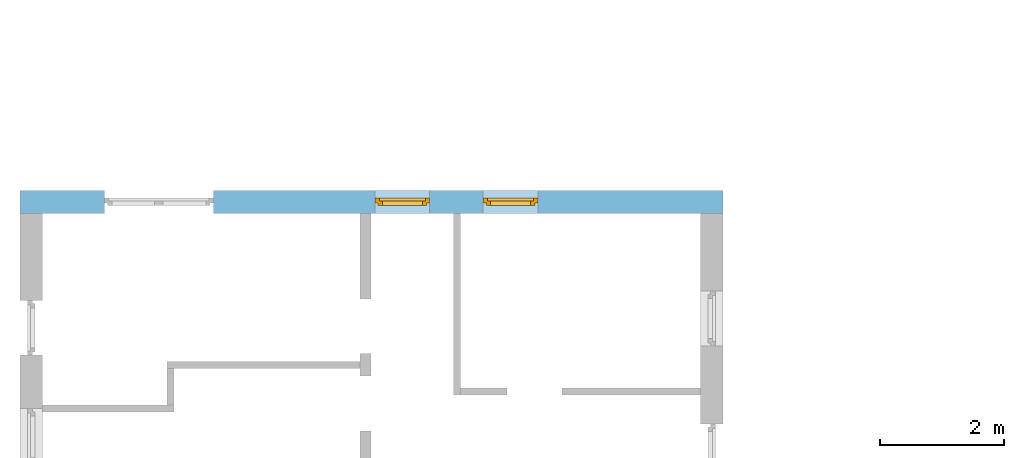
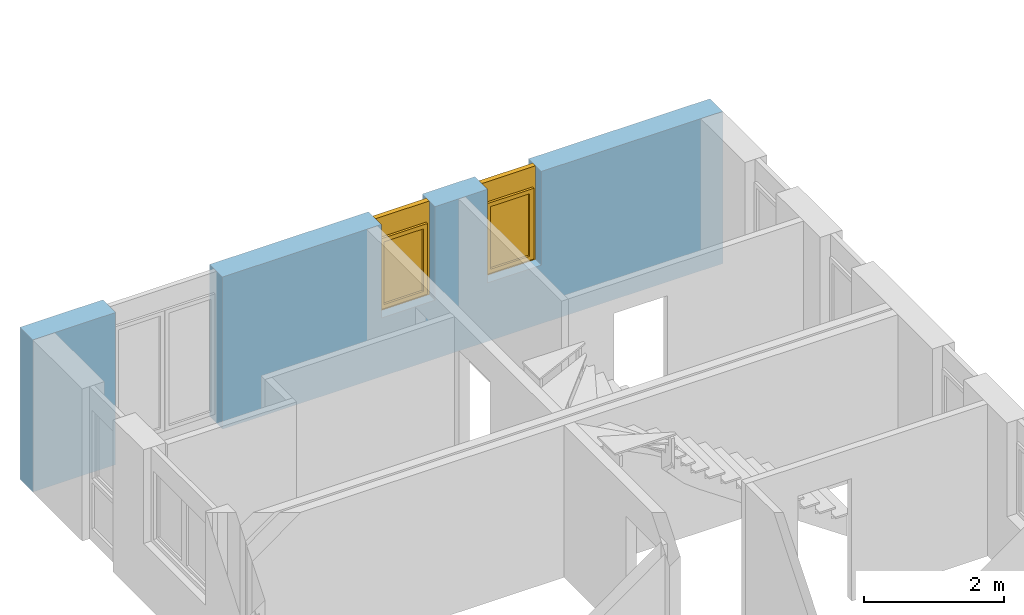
# One storey, part 14 of 42: 2 windows, 3 openings, plus 1 element that does not belong to this part.
"""IFC2X3 building model written with IfcOpenShell, lengths in millimetres."""

from ifc_helpers import new_model, entity, si_unit, converted_unit, frame, frame_2d, origin, origin_with_axes, place, context, subcontext, project, spatial, rectangle, extrude, faceted_brep, material, layer, layer_set, layer_usage, type_object, element, fill, save


model = new_model("IFC2X3")

# Units and contexts
model_context = context("Model", 3, precision=1e-05, world=origin())
body_context = subcontext(model_context, "Body", "Model", "MODEL_VIEW")
ifc_project = project(units=[si_unit("LENGTHUNIT", "METRE", prefix="MILLI"), converted_unit("PLANEANGLEUNIT", "DEGREE", entity("IfcPlaneAngleMeasure", 0.0174532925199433), si_unit("PLANEANGLEUNIT", "RADIAN"), dimensions=[0, 0, 0, 0, 0, 0, 0]), si_unit("AREAUNIT", "SQUARE_METRE"), si_unit("VOLUMEUNIT", "CUBIC_METRE")], contexts=[model_context])

# Building, storey
building_placement = place(None, origin())
building = spatial("IfcBuilding", under=ifc_project, at=building_placement, Name="Gebäude", CompositionType="ELEMENT")
storey_placement = place(building_placement, frame((0.0, 0.0, 2730.0), z_axis=(0.0, 0.0, 1.0), x_axis=(1.0, 0.0, 0.0)))
storey = spatial("IfcBuildingStorey", under=building, at=storey_placement, Name="OG.- Grundriss", CompositionType="ELEMENT", Elevation=2730.0)

# Wall, openings, windows
ifc_material_1 = material(Name="Poroton")
ifc_layer = layer(ifc_material_1, 365.0000000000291)
ifc_layer_set = layer_set([ifc_layer])
ifc_layer_usage = layer_usage(ifc_layer_set, "AXIS2", "POSITIVE", 0.0)
wall_placement = place(storey_placement, frame((142357.7928067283, 136889.8877324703, 0.0), z_axis=(0.0, 0.0, 1.0), x_axis=(-1.0, 0.0, 0.0)))
wall = element("IfcWallStandardCase", 1, at=wall_placement, inside=storey, material=ifc_layer_usage, Name="<Unnamed Element>", context=body_context, shape_type="SweptSolid", body=[
    extrude(rectangle(XDim=11365.00000000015, YDim=365.0000000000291, at=frame_2d((5682.500000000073, 182.5000000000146), x_axis=(1.0, 0.0))), origin_with_axes(), (0.0, 0.0, 1.0), 2650.0),
])
opening_1_placement = place(wall_placement, frame((8240.0, 0.0, 0.0), z_axis=(0.0, 1.0, 0.0), x_axis=(0.0, 0.0, 1.0)))
element("IfcOpeningElement", 2, at=opening_1_placement, cuts=wall, Name="Fensteröffnung", ObjectType="Opening", context=body_context, shape_type="SweptSolid", body=[
    extrude(rectangle(XDim=2650.0, YDim=1760.0, at=frame_2d((1325.0, 880.0), x_axis=(1.0, 0.0))), origin_with_axes(), (0.0, 0.0, 1.0), 365.0000000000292),
])
opening_2_placement = place(wall_placement, frame((2990.0, 0.0, 1020.0), z_axis=(0.0, 1.0, 0.0), x_axis=(0.0, 0.0, 1.0)))
opening_2 = element("IfcOpeningElement", 3, at=opening_2_placement, cuts=wall, Name="Fensteröffnung", ObjectType="Opening", context=body_context, shape_type="SweptSolid", body=[
    extrude(rectangle(XDim=1630.0, YDim=885.0, at=frame_2d((815.0, 442.5), x_axis=(1.0, 0.0))), origin_with_axes(), (0.0, 0.0, 1.0), 365.0000000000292),
])
opening_3_placement = place(wall_placement, frame((4740.0, 0.0, 1020.0), z_axis=(0.0, 1.0, 0.0), x_axis=(0.0, 0.0, 1.0)))
opening_3 = element("IfcOpeningElement", 4, at=opening_3_placement, cuts=wall, Name="Fensteröffnung", ObjectType="Opening", context=body_context, shape_type="SweptSolid", body=[
    extrude(rectangle(XDim=1630.0, YDim=885.0, at=frame_2d((815.0, 442.5), x_axis=(1.0, 0.0))), origin_with_axes(), (0.0, 0.0, 1.0), 365.0000000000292),
])
ifc_material_2 = material()
window_style_1 = type_object("IfcWindowStyle", Name="Fenster", ConstructionType="NOTDEFINED", OperationType="USERDEFINED", ParameterTakesPrecedence=False, Sizeable=False)
window_1_placement = place(opening_2_placement, frame((0.0, 0.0, 0.0), z_axis=(1.0, 0.0, 0.0), x_axis=(0.0, 1.0, 0.0)))
window_1 = element("IfcWindow", 5, at=window_1_placement, inside=storey, type_object=window_style_1, material=ifc_material_2, Name="Fenster", OverallHeight=1630.0, OverallWidth=885.0, context=body_context, shape_type="Brep", body=[
    faceted_brep([(885.0, 200.0000000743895, 1630.0), (815.0, 200.0000000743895, 1630.0), (815.0, 200.0000000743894, -2.449293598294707e-15), (885.0, 200.0000000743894, -2.449293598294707e-15), (885.0, 120.0000000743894, 2.449293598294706e-15), (815.0, 120.0000000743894, 2.449293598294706e-15), (815.0, 120.0000000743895, 1630.0), (885.0, 120.0000000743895, 1630.0), (885.0, 200.0000000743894, -2.449293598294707e-15), (885.0, 120.0000000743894, 2.449293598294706e-15), (885.0, 120.0000000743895, 1630.0), (885.0, 200.0000000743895, 1630.0), (815.0, 200.0000000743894, -2.449293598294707e-15), (815.0, 120.0000000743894, 2.449293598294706e-15), (885.0, 120.0000000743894, 2.449293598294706e-15), (885.0, 200.0000000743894, -2.449293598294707e-15), (815.0, 200.0000000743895, 1630.0), (815.0, 120.0000000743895, 1630.0), (815.0, 120.0000000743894, 2.449293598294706e-15), (815.0, 200.0000000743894, -2.449293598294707e-15), (885.0, 200.0000000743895, 1630.0), (885.0, 120.0000000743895, 1630.0), (815.0, 120.0000000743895, 1630.0), (815.0, 200.0000000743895, 1630.0)], [[[0, 1, 2, 3]], [[4, 5, 6, 7]], [[8, 9, 10, 11]], [[12, 13, 14, 15]], [[16, 17, 18, 19]], [[20, 21, 22, 23]]], orient=[[False], [False], [False], [False], [False], [False]]),
    faceted_brep([(69.99999998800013, 200.0000000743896, 1630.0), (-1.199987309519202e-08, 200.0000000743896, 1630.0), (-1.199987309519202e-08, 200.0000000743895, -2.449293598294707e-15), (69.99999998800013, 200.0000000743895, -2.449293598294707e-15), (69.99999998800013, 120.0000000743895, 2.449293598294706e-15), (-1.199987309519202e-08, 120.0000000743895, 2.449293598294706e-15), (-1.199987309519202e-08, 120.0000000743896, 1630.0), (69.99999998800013, 120.0000000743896, 1630.0), (69.99999998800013, 200.0000000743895, -2.449293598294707e-15), (69.99999998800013, 120.0000000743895, 2.449293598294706e-15), (69.99999998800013, 120.0000000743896, 1630.0), (69.99999998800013, 200.0000000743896, 1630.0), (-1.199987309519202e-08, 200.0000000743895, -2.449293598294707e-15), (-1.199987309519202e-08, 120.0000000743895, 2.449293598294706e-15), (69.99999998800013, 120.0000000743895, 2.449293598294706e-15), (69.99999998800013, 200.0000000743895, -2.449293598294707e-15), (-1.199987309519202e-08, 200.0000000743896, 1630.0), (-1.199987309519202e-08, 120.0000000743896, 1630.0), (-1.199987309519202e-08, 120.0000000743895, 2.449293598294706e-15), (-1.199987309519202e-08, 200.0000000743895, -2.449293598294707e-15), (69.99999998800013, 200.0000000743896, 1630.0), (69.99999998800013, 120.0000000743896, 1630.0), (-1.199987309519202e-08, 120.0000000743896, 1630.0), (-1.199987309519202e-08, 200.0000000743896, 1630.0)], [[[0, 1, 2, 3]], [[4, 5, 6, 7]], [[8, 9, 10, 11]], [[12, 13, 14, 15]], [[16, 17, 18, 19]], [[20, 21, 22, 23]]], orient=[[False], [False], [False], [False], [False], [False]]),
    faceted_brep([(815.0, 200.0000000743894, 69.99999999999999), (69.99999998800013, 200.0000000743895, 69.99999999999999), (69.99999998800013, 200.0000000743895, -2.449293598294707e-15), (815.0, 200.0000000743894, -2.449293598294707e-15), (815.0, 120.0000000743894, 2.449293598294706e-15), (69.99999998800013, 120.0000000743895, 2.449293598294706e-15), (69.99999998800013, 120.0000000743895, 69.99999999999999), (815.0, 120.0000000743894, 69.99999999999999), (815.0, 200.0000000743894, -2.449293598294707e-15), (815.0, 120.0000000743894, 2.449293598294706e-15), (815.0, 120.0000000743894, 69.99999999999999), (815.0, 200.0000000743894, 69.99999999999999), (69.99999998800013, 200.0000000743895, -2.449293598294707e-15), (69.99999998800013, 120.0000000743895, 2.449293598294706e-15), (815.0, 120.0000000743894, 2.449293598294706e-15), (815.0, 200.0000000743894, -2.449293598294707e-15), (69.99999998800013, 200.0000000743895, 69.99999999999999), (69.99999998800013, 120.0000000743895, 69.99999999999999), (69.99999998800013, 120.0000000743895, 2.449293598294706e-15), (69.99999998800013, 200.0000000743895, -2.449293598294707e-15), (815.0, 200.0000000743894, 69.99999999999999), (815.0, 120.0000000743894, 69.99999999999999), (69.99999998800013, 120.0000000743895, 69.99999999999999), (69.99999998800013, 200.0000000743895, 69.99999999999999)], [[[0, 1, 2, 3]], [[4, 5, 6, 7]], [[8, 9, 10, 11]], [[12, 13, 14, 15]], [[16, 17, 18, 19]], [[20, 21, 22, 23]]], orient=[[False], [False], [False], [False], [False], [False]]),
    faceted_brep([(815.0, 200.0000000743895, 1630.0), (69.99999998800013, 200.0000000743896, 1630.0), (69.99999998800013, 200.0000000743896, 1260.0), (815.0, 200.0000000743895, 1260.0), (815.0, 120.0000000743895, 1260.0), (69.99999998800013, 120.0000000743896, 1260.0), (69.99999998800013, 120.0000000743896, 1630.0), (815.0, 120.0000000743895, 1630.0), (815.0, 200.0000000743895, 1260.0), (815.0, 120.0000000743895, 1260.0), (815.0, 120.0000000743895, 1630.0), (815.0, 200.0000000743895, 1630.0), (69.99999998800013, 200.0000000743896, 1260.0), (69.99999998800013, 120.0000000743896, 1260.0), (815.0, 120.0000000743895, 1260.0), (815.0, 200.0000000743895, 1260.0), (69.99999998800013, 200.0000000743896, 1630.0), (69.99999998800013, 120.0000000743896, 1630.0), (69.99999998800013, 120.0000000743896, 1260.0), (69.99999998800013, 200.0000000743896, 1260.0), (815.0, 200.0000000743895, 1630.0), (815.0, 120.0000000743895, 1630.0), (69.99999998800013, 120.0000000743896, 1630.0), (69.99999998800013, 200.0000000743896, 1630.0)], [[[0, 1, 2, 3]], [[4, 5, 6, 7]], [[8, 9, 10, 11]], [[12, 13, 14, 15]], [[16, 17, 18, 19]], [[20, 21, 22, 23]]], orient=[[False], [False], [False], [False], [False], [False]]),
    faceted_brep([(835.0, 240.0000000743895, 1280.0), (765.0, 240.0000000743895, 1280.0), (765.0, 240.0000000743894, 49.99999999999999), (835.0, 240.0000000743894, 49.99999999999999), (835.0, 170.0000000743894, 50.0), (765.0, 170.0000000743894, 50.0), (765.0, 170.0000000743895, 1280.0), (835.0, 170.0000000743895, 1280.0), (835.0, 240.0000000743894, 49.99999999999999), (835.0, 170.0000000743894, 50.0), (835.0, 170.0000000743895, 1280.0), (835.0, 240.0000000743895, 1280.0), (765.0, 240.0000000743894, 49.99999999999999), (765.0, 170.0000000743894, 50.0), (835.0, 170.0000000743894, 50.0), (835.0, 240.0000000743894, 49.99999999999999), (765.0, 240.0000000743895, 1280.0), (765.0, 170.0000000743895, 1280.0), (765.0, 170.0000000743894, 50.0), (765.0, 240.0000000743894, 49.99999999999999), (835.0, 240.0000000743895, 1280.0), (835.0, 170.0000000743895, 1280.0), (765.0, 170.0000000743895, 1280.0), (765.0, 240.0000000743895, 1280.0)], [[[0, 1, 2, 3]], [[4, 5, 6, 7]], [[8, 9, 10, 11]], [[12, 13, 14, 15]], [[16, 17, 18, 19]], [[20, 21, 22, 23]]], orient=[[False], [False], [False], [False], [False], [False]]),
    faceted_brep([(119.9999999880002, 240.0000000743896, 1280.0), (49.99999998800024, 240.0000000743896, 1280.0), (49.99999998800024, 240.0000000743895, 49.99999999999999), (119.9999999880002, 240.0000000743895, 49.99999999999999), (119.9999999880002, 170.0000000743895, 50.0), (49.99999998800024, 170.0000000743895, 50.0), (49.99999998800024, 170.0000000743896, 1280.0), (119.9999999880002, 170.0000000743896, 1280.0), (119.9999999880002, 240.0000000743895, 49.99999999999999), (119.9999999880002, 170.0000000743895, 50.0), (119.9999999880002, 170.0000000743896, 1280.0), (119.9999999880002, 240.0000000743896, 1280.0), (49.99999998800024, 240.0000000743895, 49.99999999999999), (49.99999998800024, 170.0000000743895, 50.0), (119.9999999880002, 170.0000000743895, 50.0), (119.9999999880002, 240.0000000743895, 49.99999999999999), (49.99999998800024, 240.0000000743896, 1280.0), (49.99999998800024, 170.0000000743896, 1280.0), (49.99999998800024, 170.0000000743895, 50.0), (49.99999998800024, 240.0000000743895, 49.99999999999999), (119.9999999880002, 240.0000000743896, 1280.0), (119.9999999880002, 170.0000000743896, 1280.0), (49.99999998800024, 170.0000000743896, 1280.0), (49.99999998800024, 240.0000000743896, 1280.0)], [[[0, 1, 2, 3]], [[4, 5, 6, 7]], [[8, 9, 10, 11]], [[12, 13, 14, 15]], [[16, 17, 18, 19]], [[20, 21, 22, 23]]], orient=[[False], [False], [False], [False], [False], [False]]),
    faceted_brep([(765.0, 240.0000000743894, 120.0), (119.9999999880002, 240.0000000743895, 120.0), (119.9999999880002, 240.0000000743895, 49.99999999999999), (765.0, 240.0000000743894, 49.99999999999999), (765.0, 170.0000000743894, 50.0), (119.9999999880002, 170.0000000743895, 50.0), (119.9999999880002, 170.0000000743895, 120.0), (765.0, 170.0000000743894, 120.0), (765.0, 240.0000000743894, 49.99999999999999), (765.0, 170.0000000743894, 50.0), (765.0, 170.0000000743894, 120.0), (765.0, 240.0000000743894, 120.0), (119.9999999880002, 240.0000000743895, 49.99999999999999), (119.9999999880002, 170.0000000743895, 50.0), (765.0, 170.0000000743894, 50.0), (765.0, 240.0000000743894, 49.99999999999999), (119.9999999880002, 240.0000000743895, 120.0), (119.9999999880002, 170.0000000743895, 120.0), (119.9999999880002, 170.0000000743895, 50.0), (119.9999999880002, 240.0000000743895, 49.99999999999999), (765.0, 240.0000000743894, 120.0), (765.0, 170.0000000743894, 120.0), (119.9999999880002, 170.0000000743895, 120.0), (119.9999999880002, 240.0000000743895, 120.0)], [[[0, 1, 2, 3]], [[4, 5, 6, 7]], [[8, 9, 10, 11]], [[12, 13, 14, 15]], [[16, 17, 18, 19]], [[20, 21, 22, 23]]], orient=[[False], [False], [False], [False], [False], [False]]),
    faceted_brep([(765.0, 240.0000000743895, 1280.0), (119.9999999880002, 240.0000000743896, 1280.0), (119.9999999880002, 240.0000000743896, 1210.0), (765.0, 240.0000000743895, 1210.0), (765.0, 170.0000000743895, 1210.0), (119.9999999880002, 170.0000000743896, 1210.0), (119.9999999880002, 170.0000000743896, 1280.0), (765.0, 170.0000000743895, 1280.0), (765.0, 240.0000000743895, 1210.0), (765.0, 170.0000000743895, 1210.0), (765.0, 170.0000000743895, 1280.0), (765.0, 240.0000000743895, 1280.0), (119.9999999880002, 240.0000000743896, 1210.0), (119.9999999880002, 170.0000000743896, 1210.0), (765.0, 170.0000000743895, 1210.0), (765.0, 240.0000000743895, 1210.0), (119.9999999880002, 240.0000000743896, 1280.0), (119.9999999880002, 170.0000000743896, 1280.0), (119.9999999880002, 170.0000000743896, 1210.0), (119.9999999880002, 240.0000000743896, 1210.0), (765.0, 240.0000000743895, 1280.0), (765.0, 170.0000000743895, 1280.0), (119.9999999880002, 170.0000000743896, 1280.0), (119.9999999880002, 240.0000000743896, 1280.0)], [[[0, 1, 2, 3]], [[4, 5, 6, 7]], [[8, 9, 10, 11]], [[12, 13, 14, 15]], [[16, 17, 18, 19]], [[20, 21, 22, 23]]], orient=[[False], [False], [False], [False], [False], [False]]),
    faceted_brep([(765.0, 205.0000000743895, 120.0), (765.0, 205.0000000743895, 1210.0), (119.9999999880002, 205.0000000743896, 1210.0), (119.9999999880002, 205.0000000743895, 120.0), (765.0, 204.0000000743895, 120.0), (119.9999999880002, 204.0000000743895, 120.0), (119.9999999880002, 204.0000000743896, 1210.0), (765.0, 204.0000000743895, 1210.0), (765.0, 205.0000000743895, 120.0), (765.0, 204.0000000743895, 120.0), (765.0, 204.0000000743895, 1210.0), (765.0, 205.0000000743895, 1210.0), (765.0, 205.0000000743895, 1210.0), (765.0, 204.0000000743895, 1210.0), (119.9999999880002, 204.0000000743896, 1210.0), (119.9999999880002, 205.0000000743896, 1210.0), (119.9999999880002, 205.0000000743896, 1210.0), (119.9999999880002, 204.0000000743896, 1210.0), (119.9999999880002, 204.0000000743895, 120.0), (119.9999999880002, 205.0000000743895, 120.0), (119.9999999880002, 205.0000000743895, 120.0), (119.9999999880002, 204.0000000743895, 120.0), (765.0, 204.0000000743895, 120.0), (765.0, 205.0000000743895, 120.0)], [[[0, 1, 2, 3]], [[4, 5, 6, 7]], [[8, 9, 10, 11]], [[12, 13, 14, 15]], [[16, 17, 18, 19]], [[20, 21, 22, 23]]], orient=[[False], [False], [False], [False], [False], [False]]),
])
fill(opening_2, window_1)
ifc_material_3 = material()
window_style_2 = type_object("IfcWindowStyle", Name="Fenster", ConstructionType="NOTDEFINED", OperationType="USERDEFINED", ParameterTakesPrecedence=False, Sizeable=False)
window_2_placement = place(opening_3_placement, frame((0.0, 0.0, 0.0), z_axis=(1.0, 0.0, 0.0), x_axis=(0.0, 1.0, 0.0)))
window_2 = element("IfcWindow", 6, at=window_2_placement, inside=storey, type_object=window_style_2, material=ifc_material_3, Name="Fenster", OverallHeight=1630.0, OverallWidth=885.0, context=body_context, shape_type="Brep", body=[
    faceted_brep([(885.0, 200.0000000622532, 1630.0), (815.0, 200.0000000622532, 1630.0), (815.0, 200.0000000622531, -2.449293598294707e-15), (885.0, 200.0000000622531, -2.449293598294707e-15), (885.0, 120.0000000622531, 2.449293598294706e-15), (815.0, 120.0000000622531, 2.449293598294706e-15), (815.0, 120.0000000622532, 1630.0), (885.0, 120.0000000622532, 1630.0), (885.0, 200.0000000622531, -2.449293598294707e-15), (885.0, 120.0000000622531, 2.449293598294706e-15), (885.0, 120.0000000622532, 1630.0), (885.0, 200.0000000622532, 1630.0), (815.0, 200.0000000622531, -2.449293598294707e-15), (815.0, 120.0000000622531, 2.449293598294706e-15), (885.0, 120.0000000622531, 2.449293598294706e-15), (885.0, 200.0000000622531, -2.449293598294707e-15), (815.0, 200.0000000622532, 1630.0), (815.0, 120.0000000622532, 1630.0), (815.0, 120.0000000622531, 2.449293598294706e-15), (815.0, 200.0000000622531, -2.449293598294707e-15), (885.0, 200.0000000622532, 1630.0), (885.0, 120.0000000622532, 1630.0), (815.0, 120.0000000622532, 1630.0), (815.0, 200.0000000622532, 1630.0)], [[[0, 1, 2, 3]], [[4, 5, 6, 7]], [[8, 9, 10, 11]], [[12, 13, 14, 15]], [[16, 17, 18, 19]], [[20, 21, 22, 23]]], orient=[[False], [False], [False], [False], [False], [False]]),
    faceted_brep([(69.99999998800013, 200.0000000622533, 1630.0), (-1.199987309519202e-08, 200.0000000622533, 1630.0), (-1.199987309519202e-08, 200.0000000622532, -2.449293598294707e-15), (69.99999998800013, 200.0000000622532, -2.449293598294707e-15), (69.99999998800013, 120.0000000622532, 2.449293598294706e-15), (-1.199987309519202e-08, 120.0000000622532, 2.449293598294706e-15), (-1.199987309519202e-08, 120.0000000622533, 1630.0), (69.99999998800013, 120.0000000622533, 1630.0), (69.99999998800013, 200.0000000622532, -2.449293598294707e-15), (69.99999998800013, 120.0000000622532, 2.449293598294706e-15), (69.99999998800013, 120.0000000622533, 1630.0), (69.99999998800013, 200.0000000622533, 1630.0), (-1.199987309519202e-08, 200.0000000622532, -2.449293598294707e-15), (-1.199987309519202e-08, 120.0000000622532, 2.449293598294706e-15), (69.99999998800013, 120.0000000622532, 2.449293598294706e-15), (69.99999998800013, 200.0000000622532, -2.449293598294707e-15), (-1.199987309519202e-08, 200.0000000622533, 1630.0), (-1.199987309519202e-08, 120.0000000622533, 1630.0), (-1.199987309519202e-08, 120.0000000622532, 2.449293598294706e-15), (-1.199987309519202e-08, 200.0000000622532, -2.449293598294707e-15), (69.99999998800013, 200.0000000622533, 1630.0), (69.99999998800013, 120.0000000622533, 1630.0), (-1.199987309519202e-08, 120.0000000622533, 1630.0), (-1.199987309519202e-08, 200.0000000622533, 1630.0)], [[[0, 1, 2, 3]], [[4, 5, 6, 7]], [[8, 9, 10, 11]], [[12, 13, 14, 15]], [[16, 17, 18, 19]], [[20, 21, 22, 23]]], orient=[[False], [False], [False], [False], [False], [False]]),
    faceted_brep([(815.0, 200.0000000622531, 69.99999999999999), (69.99999998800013, 200.0000000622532, 69.99999999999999), (69.99999998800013, 200.0000000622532, -2.449293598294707e-15), (815.0, 200.0000000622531, -2.449293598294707e-15), (815.0, 120.0000000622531, 2.449293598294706e-15), (69.99999998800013, 120.0000000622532, 2.449293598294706e-15), (69.99999998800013, 120.0000000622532, 69.99999999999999), (815.0, 120.0000000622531, 69.99999999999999), (815.0, 200.0000000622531, -2.449293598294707e-15), (815.0, 120.0000000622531, 2.449293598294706e-15), (815.0, 120.0000000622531, 69.99999999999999), (815.0, 200.0000000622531, 69.99999999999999), (69.99999998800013, 200.0000000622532, -2.449293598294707e-15), (69.99999998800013, 120.0000000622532, 2.449293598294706e-15), (815.0, 120.0000000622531, 2.449293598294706e-15), (815.0, 200.0000000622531, -2.449293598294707e-15), (69.99999998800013, 200.0000000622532, 69.99999999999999), (69.99999998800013, 120.0000000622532, 69.99999999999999), (69.99999998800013, 120.0000000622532, 2.449293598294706e-15), (69.99999998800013, 200.0000000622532, -2.449293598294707e-15), (815.0, 200.0000000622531, 69.99999999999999), (815.0, 120.0000000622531, 69.99999999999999), (69.99999998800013, 120.0000000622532, 69.99999999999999), (69.99999998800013, 200.0000000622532, 69.99999999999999)], [[[0, 1, 2, 3]], [[4, 5, 6, 7]], [[8, 9, 10, 11]], [[12, 13, 14, 15]], [[16, 17, 18, 19]], [[20, 21, 22, 23]]], orient=[[False], [False], [False], [False], [False], [False]]),
    faceted_brep([(815.0, 200.0000000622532, 1630.0), (69.99999998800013, 200.0000000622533, 1630.0), (69.99999998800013, 200.0000000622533, 1260.0), (815.0, 200.0000000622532, 1260.0), (815.0, 120.0000000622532, 1260.0), (69.99999998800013, 120.0000000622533, 1260.0), (69.99999998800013, 120.0000000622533, 1630.0), (815.0, 120.0000000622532, 1630.0), (815.0, 200.0000000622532, 1260.0), (815.0, 120.0000000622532, 1260.0), (815.0, 120.0000000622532, 1630.0), (815.0, 200.0000000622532, 1630.0), (69.99999998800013, 200.0000000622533, 1260.0), (69.99999998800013, 120.0000000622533, 1260.0), (815.0, 120.0000000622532, 1260.0), (815.0, 200.0000000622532, 1260.0), (69.99999998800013, 200.0000000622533, 1630.0), (69.99999998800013, 120.0000000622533, 1630.0), (69.99999998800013, 120.0000000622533, 1260.0), (69.99999998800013, 200.0000000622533, 1260.0), (815.0, 200.0000000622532, 1630.0), (815.0, 120.0000000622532, 1630.0), (69.99999998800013, 120.0000000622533, 1630.0), (69.99999998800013, 200.0000000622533, 1630.0)], [[[0, 1, 2, 3]], [[4, 5, 6, 7]], [[8, 9, 10, 11]], [[12, 13, 14, 15]], [[16, 17, 18, 19]], [[20, 21, 22, 23]]], orient=[[False], [False], [False], [False], [False], [False]]),
    faceted_brep([(835.0, 240.0000000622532, 1280.0), (765.0, 240.0000000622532, 1280.0), (765.0, 240.0000000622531, 49.99999999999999), (835.0, 240.0000000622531, 49.99999999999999), (835.0, 170.0000000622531, 50.0), (765.0, 170.0000000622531, 50.0), (765.0, 170.0000000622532, 1280.0), (835.0, 170.0000000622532, 1280.0), (835.0, 240.0000000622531, 49.99999999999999), (835.0, 170.0000000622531, 50.0), (835.0, 170.0000000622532, 1280.0), (835.0, 240.0000000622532, 1280.0), (765.0, 240.0000000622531, 49.99999999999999), (765.0, 170.0000000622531, 50.0), (835.0, 170.0000000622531, 50.0), (835.0, 240.0000000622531, 49.99999999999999), (765.0, 240.0000000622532, 1280.0), (765.0, 170.0000000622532, 1280.0), (765.0, 170.0000000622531, 50.0), (765.0, 240.0000000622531, 49.99999999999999), (835.0, 240.0000000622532, 1280.0), (835.0, 170.0000000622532, 1280.0), (765.0, 170.0000000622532, 1280.0), (765.0, 240.0000000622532, 1280.0)], [[[0, 1, 2, 3]], [[4, 5, 6, 7]], [[8, 9, 10, 11]], [[12, 13, 14, 15]], [[16, 17, 18, 19]], [[20, 21, 22, 23]]], orient=[[False], [False], [False], [False], [False], [False]]),
    faceted_brep([(119.9999999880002, 240.0000000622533, 1280.0), (49.99999998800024, 240.0000000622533, 1280.0), (49.99999998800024, 240.0000000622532, 49.99999999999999), (119.9999999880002, 240.0000000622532, 49.99999999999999), (119.9999999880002, 170.0000000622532, 50.0), (49.99999998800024, 170.0000000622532, 50.0), (49.99999998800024, 170.0000000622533, 1280.0), (119.9999999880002, 170.0000000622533, 1280.0), (119.9999999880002, 240.0000000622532, 49.99999999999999), (119.9999999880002, 170.0000000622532, 50.0), (119.9999999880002, 170.0000000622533, 1280.0), (119.9999999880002, 240.0000000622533, 1280.0), (49.99999998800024, 240.0000000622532, 49.99999999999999), (49.99999998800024, 170.0000000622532, 50.0), (119.9999999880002, 170.0000000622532, 50.0), (119.9999999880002, 240.0000000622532, 49.99999999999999), (49.99999998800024, 240.0000000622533, 1280.0), (49.99999998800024, 170.0000000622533, 1280.0), (49.99999998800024, 170.0000000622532, 50.0), (49.99999998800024, 240.0000000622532, 49.99999999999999), (119.9999999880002, 240.0000000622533, 1280.0), (119.9999999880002, 170.0000000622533, 1280.0), (49.99999998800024, 170.0000000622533, 1280.0), (49.99999998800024, 240.0000000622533, 1280.0)], [[[0, 1, 2, 3]], [[4, 5, 6, 7]], [[8, 9, 10, 11]], [[12, 13, 14, 15]], [[16, 17, 18, 19]], [[20, 21, 22, 23]]], orient=[[False], [False], [False], [False], [False], [False]]),
    faceted_brep([(765.0, 240.0000000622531, 120.0), (119.9999999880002, 240.0000000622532, 120.0), (119.9999999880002, 240.0000000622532, 49.99999999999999), (765.0, 240.0000000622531, 49.99999999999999), (765.0, 170.0000000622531, 50.0), (119.9999999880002, 170.0000000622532, 50.0), (119.9999999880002, 170.0000000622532, 120.0), (765.0, 170.0000000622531, 120.0), (765.0, 240.0000000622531, 49.99999999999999), (765.0, 170.0000000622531, 50.0), (765.0, 170.0000000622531, 120.0), (765.0, 240.0000000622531, 120.0), (119.9999999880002, 240.0000000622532, 49.99999999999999), (119.9999999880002, 170.0000000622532, 50.0), (765.0, 170.0000000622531, 50.0), (765.0, 240.0000000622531, 49.99999999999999), (119.9999999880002, 240.0000000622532, 120.0), (119.9999999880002, 170.0000000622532, 120.0), (119.9999999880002, 170.0000000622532, 50.0), (119.9999999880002, 240.0000000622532, 49.99999999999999), (765.0, 240.0000000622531, 120.0), (765.0, 170.0000000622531, 120.0), (119.9999999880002, 170.0000000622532, 120.0), (119.9999999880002, 240.0000000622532, 120.0)], [[[0, 1, 2, 3]], [[4, 5, 6, 7]], [[8, 9, 10, 11]], [[12, 13, 14, 15]], [[16, 17, 18, 19]], [[20, 21, 22, 23]]], orient=[[False], [False], [False], [False], [False], [False]]),
    faceted_brep([(765.0, 240.0000000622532, 1280.0), (119.9999999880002, 240.0000000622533, 1280.0), (119.9999999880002, 240.0000000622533, 1210.0), (765.0, 240.0000000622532, 1210.0), (765.0, 170.0000000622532, 1210.0), (119.9999999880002, 170.0000000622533, 1210.0), (119.9999999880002, 170.0000000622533, 1280.0), (765.0, 170.0000000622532, 1280.0), (765.0, 240.0000000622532, 1210.0), (765.0, 170.0000000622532, 1210.0), (765.0, 170.0000000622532, 1280.0), (765.0, 240.0000000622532, 1280.0), (119.9999999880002, 240.0000000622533, 1210.0), (119.9999999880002, 170.0000000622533, 1210.0), (765.0, 170.0000000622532, 1210.0), (765.0, 240.0000000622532, 1210.0), (119.9999999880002, 240.0000000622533, 1280.0), (119.9999999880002, 170.0000000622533, 1280.0), (119.9999999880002, 170.0000000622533, 1210.0), (119.9999999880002, 240.0000000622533, 1210.0), (765.0, 240.0000000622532, 1280.0), (765.0, 170.0000000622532, 1280.0), (119.9999999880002, 170.0000000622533, 1280.0), (119.9999999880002, 240.0000000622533, 1280.0)], [[[0, 1, 2, 3]], [[4, 5, 6, 7]], [[8, 9, 10, 11]], [[12, 13, 14, 15]], [[16, 17, 18, 19]], [[20, 21, 22, 23]]], orient=[[False], [False], [False], [False], [False], [False]]),
    faceted_brep([(765.0, 205.0000000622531, 120.0), (765.0, 205.0000000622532, 1210.0), (119.9999999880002, 205.0000000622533, 1210.0), (119.9999999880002, 205.0000000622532, 120.0), (765.0, 204.0000000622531, 120.0), (119.9999999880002, 204.0000000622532, 120.0), (119.9999999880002, 204.0000000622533, 1210.0), (765.0, 204.0000000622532, 1210.0), (765.0, 205.0000000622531, 120.0), (765.0, 204.0000000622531, 120.0), (765.0, 204.0000000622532, 1210.0), (765.0, 205.0000000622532, 1210.0), (765.0, 205.0000000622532, 1210.0), (765.0, 204.0000000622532, 1210.0), (119.9999999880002, 204.0000000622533, 1210.0), (119.9999999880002, 205.0000000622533, 1210.0), (119.9999999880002, 205.0000000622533, 1210.0), (119.9999999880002, 204.0000000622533, 1210.0), (119.9999999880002, 204.0000000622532, 120.0), (119.9999999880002, 205.0000000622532, 120.0), (119.9999999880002, 205.0000000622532, 120.0), (119.9999999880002, 204.0000000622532, 120.0), (765.0, 204.0000000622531, 120.0), (765.0, 205.0000000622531, 120.0)], [[[0, 1, 2, 3]], [[4, 5, 6, 7]], [[8, 9, 10, 11]], [[12, 13, 14, 15]], [[16, 17, 18, 19]], [[20, 21, 22, 23]]], orient=[[False], [False], [False], [False], [False], [False]]),
])
fill(opening_3, window_2)

save(model, "model.ifc")
